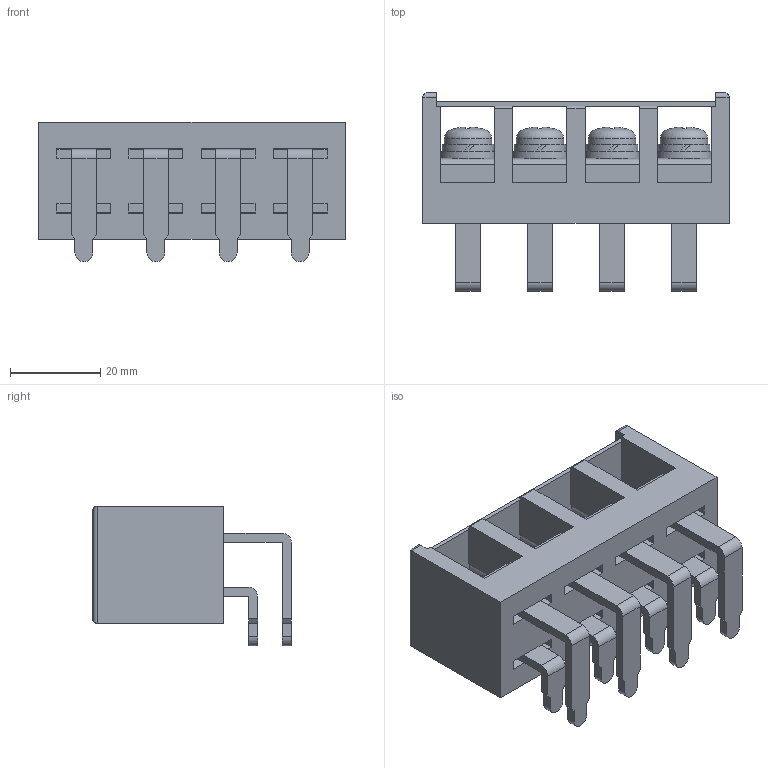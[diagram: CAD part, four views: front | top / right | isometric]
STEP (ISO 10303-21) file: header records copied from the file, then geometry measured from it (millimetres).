
FILE_DESCRIPTION(/* description */ ('Alibre Inc.'),/* implementation_level */ '2;1');
FILE_NAME(/* name */ 'export-198926F0-355E-49AF-8EA3-88BC976476F5',/* time_stamp */ '2025-01-30T14:12:26+09:00',/* author */ (''),/* organization */ (''),/* preprocessor_version */ 'ST-DEVELOPER v17',/* originating_system */ 'Alibre',/* authorisation */ '');
FILE_SCHEMA (('CONFIG_CONTROL_DESIGN'));
Length unit declared in the file: millimetre
Bounding box: 68 x 44.1 x 31 mm (x, y, z)
Volume: 34164.7 mm3; surface area: 20734.5 mm2
Topology: 1 solids, 2 shells, 724 faces, 2022 edges, 1325 vertices
Faces by surface type: plane 481, bspline 150, cylinder 68, cone 17, torus 4, sphere 4
Full cylindrical faces by diameter (mm): 6 x1, 10.5 x4, 12.5 x3
Entity records: 21952 total; most frequent: CARTESIAN_POINT 5322, ORIENTED_EDGE 4004, DIRECTION 2365, EDGE_CURVE 2002, VERTEX_POINT 1318, VECTOR 1317, LINE 1317, EDGE_LOOP 784
